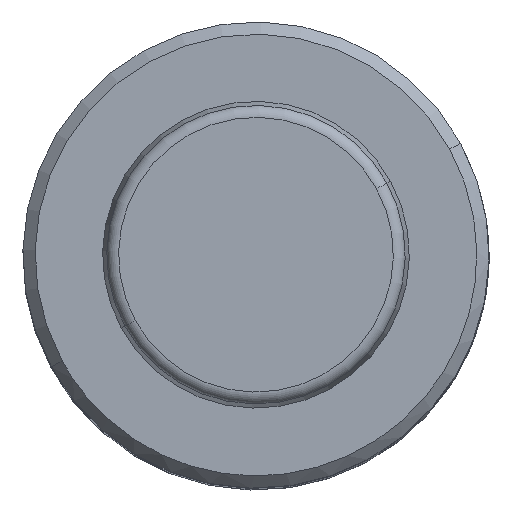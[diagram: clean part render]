
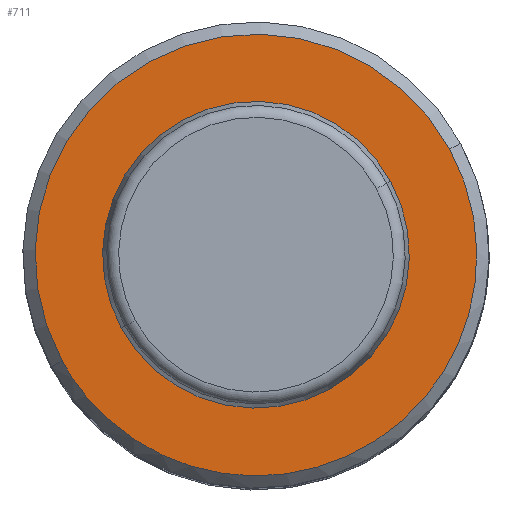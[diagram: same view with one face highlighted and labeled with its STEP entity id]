
A CAD part, top view. The second image highlights one B-rep face of the part: STEP entity #711.
In plain terms, the highlighted planar face has unit normal (0, 0, 1).
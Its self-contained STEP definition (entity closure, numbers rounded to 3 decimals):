
#641=CARTESIAN_POINT('Axis2P3D Location',(0.,0.,69.)) ;
#645=CARTESIAN_POINT('Vertex',(15.796,8.63,69.)) ;
#647=CARTESIAN_POINT('Vertex',(-15.796,-8.63,69.)) ;
#676=CARTESIAN_POINT('Axis2P3D Location',(18.,0.,69.)) ;
#682=CARTESIAN_POINT('Control Point',(15.796,8.63,69.)) ;
#683=CARTESIAN_POINT('Control Point',(16.594,7.17,69.)) ;
#684=CARTESIAN_POINT('Control Point',(17.222,5.619,69.)) ;
#685=CARTESIAN_POINT('Control Point',(17.668,4.002,69.)) ;
#686=CARTESIAN_POINT('Control Point',(18.179,0.693,69.)) ;
#687=CARTESIAN_POINT('Control Point',(17.922,-2.644,69.)) ;
#688=CARTESIAN_POINT('Control Point',(17.6,-4.291,69.)) ;
#689=CARTESIAN_POINT('Control Point',(16.583,-7.48,69.)) ;
#690=CARTESIAN_POINT('Control Point',(14.865,-10.354,69.)) ;
#691=CARTESIAN_POINT('Control Point',(13.844,-11.685,69.)) ;
#692=CARTESIAN_POINT('Control Point',(11.512,-14.086,69.)) ;
#693=CARTESIAN_POINT('Control Point',(8.694,-15.893,69.)) ;
#694=CARTESIAN_POINT('Control Point',(7.186,-16.63,69.)) ;
#695=CARTESIAN_POINT('Control Point',(4.028,-17.74,69.)) ;
#696=CARTESIAN_POINT('Control Point',(0.7,-18.102,69.)) ;
#697=CARTESIAN_POINT('Control Point',(-0.978,-18.089,69.)) ;
#698=CARTESIAN_POINT('Control Point',(-4.3,-17.677,69.)) ;
#699=CARTESIAN_POINT('Control Point',(-7.44,-16.518,69.)) ;
#700=CARTESIAN_POINT('Control Point',(-8.936,-15.758,69.)) ;
#701=CARTESIAN_POINT('Control Point',(-11.45,-14.092,69.)) ;
#702=CARTESIAN_POINT('Control Point',(-13.561,-11.949,69.)) ;
#703=CARTESIAN_POINT('Control Point',(-14.41,-10.91,69.)) ;
#704=CARTESIAN_POINT('Control Point',(-15.157,-9.8,69.)) ;
#705=CARTESIAN_POINT('Control Point',(-15.796,-8.63,69.)) ;
#642=DIRECTION('Axis2P3D Direction',(0.,0.,-1.)) ;
#677=DIRECTION('Axis2P3D Direction',(0.,0.,1.)) ;
#678=DIRECTION('Axis2P3D XDirection',(1.,0.,0.)) ;
#643=AXIS2_PLACEMENT_3D('Circle Axis2P3D',#641,#642,$) ;
#679=AXIS2_PLACEMENT_3D('Plane Axis2P3D',#676,#677,#678) ;
#708=ORIENTED_EDGE('',*,*,#649,.T.) ;
#709=ORIENTED_EDGE('',*,*,#706,.T.) ;
#711=ADVANCED_FACE('',(#710),#680,.T.) ;
#681=B_SPLINE_CURVE_WITH_KNOTS('',5,(#682,#683,#684,#685,#686,#687,#688,#689,#690,#691,#692,#693,#694,#695,#696,#697,#698,#699,#700,#701,#702,#703,#704,#705),.UNSPECIFIED.,.F.,.U.,(6,3,3,3,3,3,3,6),(0.,11.757,23.515,35.272,47.03,58.787,70.545,79.971),.UNSPECIFIED.) ;
#644=CIRCLE('generated circle',#643,18.) ;
#649=EDGE_CURVE('',#646,#648,#644,.F.) ;
#706=EDGE_CURVE('',#648,#646,#681,.F.) ;
#707=EDGE_LOOP('',(#708,#709)) ;
#710=FACE_OUTER_BOUND('',#707,.T.) ;
#680=PLANE('Plane',#679) ;
#646=VERTEX_POINT('',#645) ;
#648=VERTEX_POINT('',#647) ;
